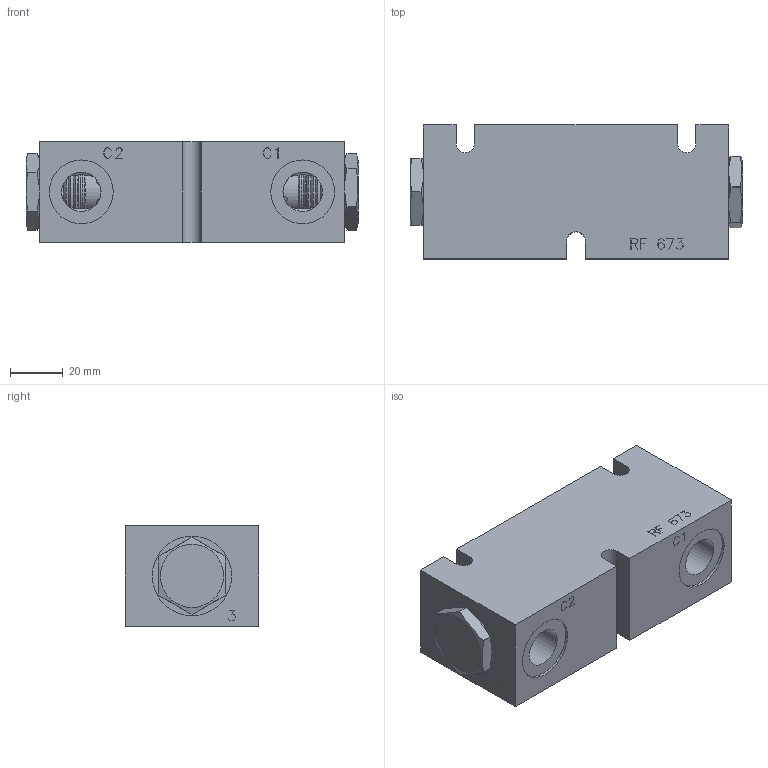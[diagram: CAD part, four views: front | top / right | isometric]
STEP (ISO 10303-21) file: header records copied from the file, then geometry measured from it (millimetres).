
FILE_DESCRIPTION(/* description */ ('Unknown'),/* implementation_level */ '2;1');
FILE_NAME(/* name */ 'RF LC673',/* time_stamp */ '2022-10-12T13:55:26+01:00',/* author */ ('Unknown'),/* organization */ ('Unknown'),/* preprocessor_version */ 'ST-DEVELOPER v18.1',/* originating_system */ 'Solid Edge',/* authorisation */ 'Unknown');
FILE_SCHEMA (('AUTOMOTIVE_DESIGN {1 0 10303 214 3 1 1}'));
Length unit declared in the file: millimetre
Products named in the file (9): RF 673_D; M-673; PT-PTN-SD; D-DE-CVA-00-0070; DE-CV-Body; DE-Nose; PT-OR-3-910-N70A; PT-OR-2-014-N70A; PT-BK-A-08-014A
Assembly tree (9 placements, depth 3):
  RF 673_D
    M-673
    PT-PTN-SD
    D-DE-CVA-00-0070  x2
      DE-CV-Body
      DE-Nose
      PT-OR-3-910-N70A
      PT-OR-2-014-N70A
      PT-BK-A-08-014A
Bounding box: 126 x 50.8 x 38.1 mm (x, y, z)
Volume: 219209.7 mm3; surface area: 49451.7 mm2
Topology: 16 solids, 16 shells, 594 faces, 1522 edges, 989 vertices
Faces by surface type: plane 439, cylinder 88, cone 56, torus 11
Full cylindrical faces by diameter (mm): 3 x12, 4 x2, 7.9 x4, 10 x2, 12.52 x1, 13.3 x6, 13.393 x2, 13.52 x2, 14.95 x8, 15.862 x2, 15.9 x8, 15.906 x2, 16.033 x2, 17.3 x4, 18.879 x4, 20.262 x4, 24 x2, 24.2 x4, 30.175 x2
Entity records: 14644 total; most frequent: CARTESIAN_POINT 3463, ORIENTED_EDGE 2478, DIRECTION 1721, EDGE_CURVE 1239, VERTEX_POINT 866, B_SPLINE_CURVE_WITH_KNOTS 704, AXIS2_PLACEMENT_3D 664, FACE_BOUND 655
